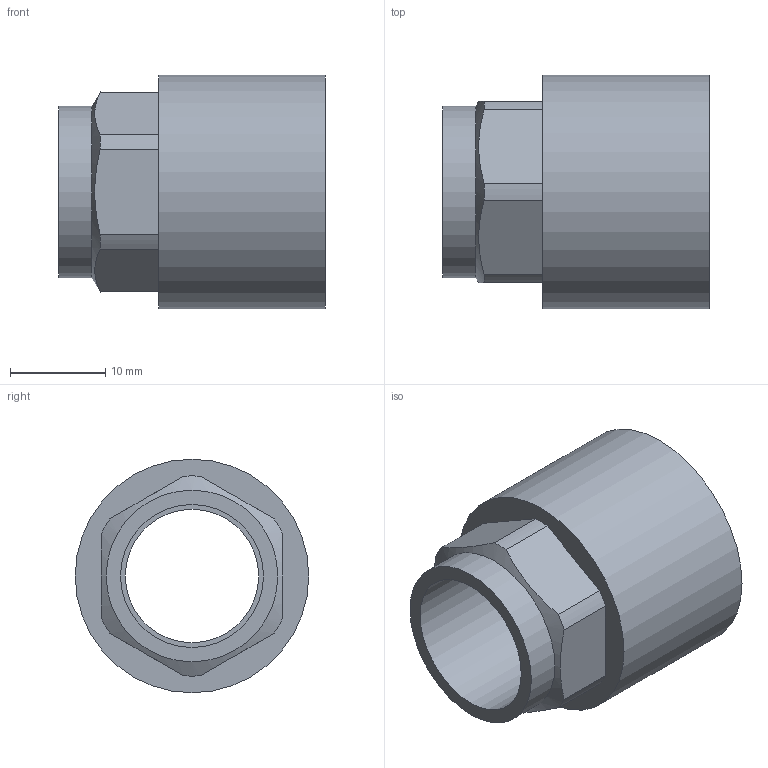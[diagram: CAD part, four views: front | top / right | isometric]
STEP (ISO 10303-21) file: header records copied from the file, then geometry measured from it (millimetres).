
FILE_DESCRIPTION((''),'2;1');
FILE_NAME('\\lg50001\SANHA_Legnica\Engineering\Public\RYSUNKI\SANHA POLSKA\4270G\inventor\14270_15-12(4).stp','2014-08-25T10:29:51',('gomulka'),(''),'Autodesk Inventor 2009','Autodesk Inventor 2009','');
FILE_SCHEMA(('AUTOMOTIVE_DESIGN { 1 0 10303 214 1 1 1 1 }'));
Length unit declared in the file: millimetre
Products named in the file (1): 14270_15-12(4)
Bounding box: 28 x 24.5 x 24.5 mm (x, y, z)
Volume: 4533.4 mm3; surface area: 4199.9 mm2
Topology: 1 solids, 1 shells, 27 faces, 61 edges, 39 vertices
Faces by surface type: cylinder 12, plane 11, cone 3, bspline 1
Full cylindrical faces by diameter (mm): 14 x1, 15 x1, 18 x1, 18.631 x1, 21.7 x1, 24.5 x1
Entity records: 766 total; most frequent: CARTESIAN_POINT 172, DIRECTION 124, ORIENTED_EDGE 100, AXIS2_PLACEMENT_3D 53, EDGE_CURVE 50, EDGE_LOOP 42, VERTEX_POINT 38, FACE_OUTER_BOUND 27
